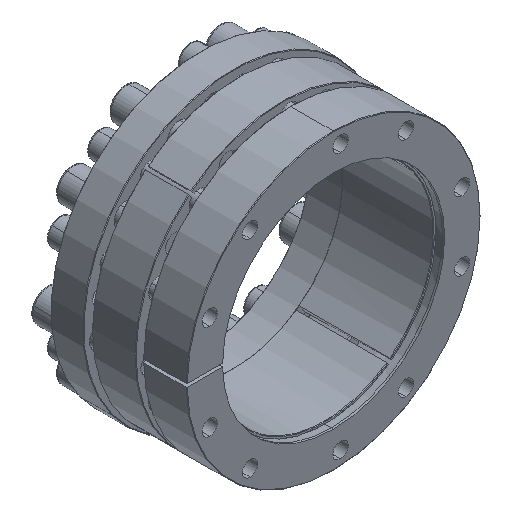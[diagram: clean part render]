
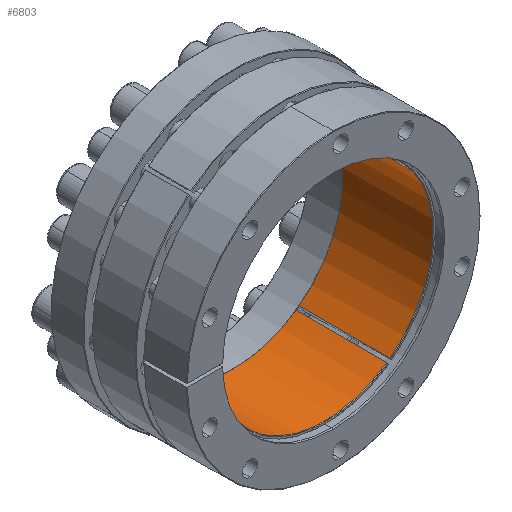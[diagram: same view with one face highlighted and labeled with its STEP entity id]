
A CAD part, isometric view. The second image highlights one B-rep face of the part: STEP entity #6803.
In plain terms, the highlighted cylindrical face has radius 100 mm (diameter 200 mm), a partial arc.
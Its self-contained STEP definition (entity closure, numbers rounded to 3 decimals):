
#22 = CARTESIAN_POINT ( 'NONE',  ( 80.902, 99.467, 58.779 ) ) ;
#702 = CIRCLE ( 'NONE', #10516, 100. ) ;
#1166 = LINE ( 'NONE', #16861, #13481 ) ;
#1361 = DIRECTION ( 'NONE',  ( 0., -1., 0. ) ) ;
#1412 = CIRCLE ( 'NONE', #30497, 100. ) ;
#1464 = AXIS2_PLACEMENT_3D ( 'NONE', #22117, #2452, #5023 ) ;
#1946 = ORIENTED_EDGE ( 'NONE', *, *, #8588, .T. ) ;
#2337 = VECTOR ( 'NONE', #14770, 1000. ) ;
#2452 = DIRECTION ( 'NONE',  ( 0., 1., 0. ) ) ;
#3112 = EDGE_CURVE ( 'NONE', #9933, #31156, #8762, .T. ) ;
#3178 = DIRECTION ( 'NONE',  ( 0., -1., 0. ) ) ;
#3300 = ORIENTED_EDGE ( 'NONE', *, *, #13821, .F. ) ;
#3434 = CARTESIAN_POINT ( 'NONE',  ( 60.185, 8.499, -79.861 ) ) ;
#3629 = AXIS2_PLACEMENT_3D ( 'NONE', #25637, #10881, #28110 ) ;
#3743 = CARTESIAN_POINT ( 'NONE',  ( 0., 8.499, 0. ) ) ;
#4175 = VERTEX_POINT ( 'NONE', #14011 ) ;
#4225 = ORIENTED_EDGE ( 'NONE', *, *, #30249, .F. ) ;
#4336 = EDGE_CURVE ( 'NONE', #4175, #28603, #27735, .T. ) ;
#5023 = DIRECTION ( 'NONE',  ( 0.809, 0., 0.588 ) ) ;
#5311 = VECTOR ( 'NONE', #3178, 1000. ) ;
#6205 = DIRECTION ( 'NONE',  ( -0.809, 0., -0.588 ) ) ;
#6682 = ORIENTED_EDGE ( 'NONE', *, *, #16770, .F. ) ;
#6803 = ADVANCED_FACE ( 'NONE', ( #25012 ), #28477, .F. ) ;
#6882 = VERTEX_POINT ( 'NONE', #10072 ) ;
#7695 = DIRECTION ( 'NONE',  ( 0., 1., 0. ) ) ;
#8312 = AXIS2_PLACEMENT_3D ( 'NONE', #3743, #20928, #6205 ) ;
#8588 = EDGE_CURVE ( 'NONE', #29822, #31156, #702, .T. ) ;
#8762 = LINE ( 'NONE', #17879, #5311 ) ;
#9933 = VERTEX_POINT ( 'NONE', #13515 ) ;
#9936 = EDGE_CURVE ( 'NONE', #13526, #4175, #26505, .T. ) ;
#10072 = CARTESIAN_POINT ( 'NONE',  ( -80.902, 91.999, -58.779 ) ) ;
#10516 = AXIS2_PLACEMENT_3D ( 'NONE', #16123, #1361, #18585 ) ;
#10881 = DIRECTION ( 'NONE',  ( 0., 1., 0. ) ) ;
#11197 = ORIENTED_EDGE ( 'NONE', *, *, #4336, .T. ) ;
#12585 = CIRCLE ( 'NONE', #3629, 100. ) ;
#13481 = VECTOR ( 'NONE', #19221, 1000. ) ;
#13515 = CARTESIAN_POINT ( 'NONE',  ( 57.354, 91.499, -81.918 ) ) ;
#13526 = VERTEX_POINT ( 'NONE', #3434 ) ;
#13821 = EDGE_CURVE ( 'NONE', #27056, #9933, #1412, .T. ) ;
#14011 = CARTESIAN_POINT ( 'NONE',  ( 80.902, 8.499, 58.779 ) ) ;
#14294 = EDGE_LOOP ( 'NONE', ( #4225, #1946, #29995, #3300, #6682, #25052, #11197, #16876 ) ) ;
#14770 = DIRECTION ( 'NONE',  ( 0., 1., 0. ) ) ;
#16123 = CARTESIAN_POINT ( 'NONE',  ( 0., 8.499, 0. ) ) ;
#16300 = CARTESIAN_POINT ( 'NONE',  ( -80.902, 99.467, -58.779 ) ) ;
#16770 = EDGE_CURVE ( 'NONE', #13526, #27056, #1166, .T. ) ;
#16861 = CARTESIAN_POINT ( 'NONE',  ( 60.185, 99.467, -79.861 ) ) ;
#16876 = ORIENTED_EDGE ( 'NONE', *, *, #19263, .T. ) ;
#17879 = CARTESIAN_POINT ( 'NONE',  ( 57.354, 99.467, -81.918 ) ) ;
#18585 = DIRECTION ( 'NONE',  ( -0.809, 0., -0.588 ) ) ;
#18703 = CARTESIAN_POINT ( 'NONE',  ( 60.185, 91.499, -79.861 ) ) ;
#18748 = DIRECTION ( 'NONE',  ( 0., 1., 0. ) ) ;
#19221 = DIRECTION ( 'NONE',  ( 0., 1., 0. ) ) ;
#19263 = EDGE_CURVE ( 'NONE', #28603, #6882, #12585, .T. ) ;
#20455 = VECTOR ( 'NONE', #18748, 1000. ) ;
#20928 = DIRECTION ( 'NONE',  ( 0., -1., 0. ) ) ;
#21229 = LINE ( 'NONE', #16300, #20455 ) ;
#22117 = CARTESIAN_POINT ( 'NONE',  ( 0., 99.467, 0. ) ) ;
#22418 = CARTESIAN_POINT ( 'NONE',  ( 0., 91.499, 0. ) ) ;
#24902 = DIRECTION ( 'NONE',  ( 0.809, 0., 0.588 ) ) ;
#24959 = CARTESIAN_POINT ( 'NONE',  ( 57.354, 8.499, -81.918 ) ) ;
#25012 = FACE_OUTER_BOUND ( 'NONE', #14294, .T. ) ;
#25052 = ORIENTED_EDGE ( 'NONE', *, *, #9936, .T. ) ;
#25637 = CARTESIAN_POINT ( 'NONE',  ( 0., 91.999, 0. ) ) ;
#25866 = CARTESIAN_POINT ( 'NONE',  ( 80.902, 91.999, 58.779 ) ) ;
#26505 = CIRCLE ( 'NONE', #8312, 100. ) ;
#27056 = VERTEX_POINT ( 'NONE', #18703 ) ;
#27735 = LINE ( 'NONE', #22, #2337 ) ;
#28110 = DIRECTION ( 'NONE',  ( 0.809, 0., 0.588 ) ) ;
#28271 = CARTESIAN_POINT ( 'NONE',  ( -80.902, 8.499, -58.779 ) ) ;
#28477 = CYLINDRICAL_SURFACE ( 'NONE', #1464, 100. ) ;
#28603 = VERTEX_POINT ( 'NONE', #25866 ) ;
#29822 = VERTEX_POINT ( 'NONE', #28271 ) ;
#29995 = ORIENTED_EDGE ( 'NONE', *, *, #3112, .F. ) ;
#30249 = EDGE_CURVE ( 'NONE', #29822, #6882, #21229, .T. ) ;
#30497 = AXIS2_PLACEMENT_3D ( 'NONE', #22418, #7695, #24902 ) ;
#31156 = VERTEX_POINT ( 'NONE', #24959 ) ;
